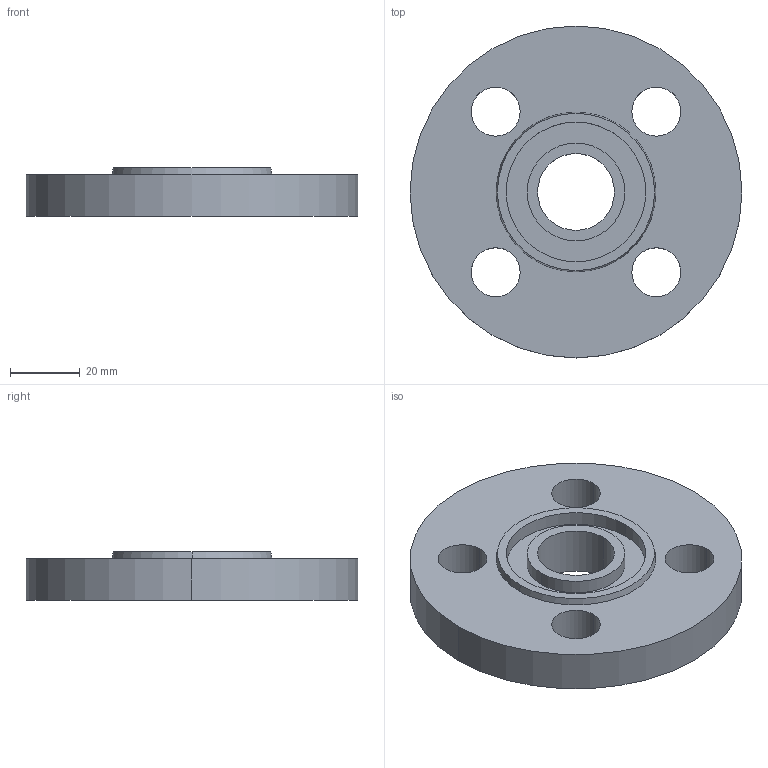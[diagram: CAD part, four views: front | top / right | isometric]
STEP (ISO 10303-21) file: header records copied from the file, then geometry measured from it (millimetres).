
FILE_DESCRIPTION (( 'STEP AP214' ), '1' );
FILE_NAME ('PN40 DN15 Type 01 - Type D Face.STEP', '2018-12-29T15:12:18', ( '' ), ( '' ), 'SwSTEP 2.0', 'SolidWorks 2019', '' );
FILE_SCHEMA (( 'AUTOMOTIVE_DESIGN' ));
Length unit declared in the file: millimetre
Products named in the file (1): PN40 DN15 Type 01 - Type D Face
Bounding box: 95 x 95 x 14 mm (x, y, z)
Volume: 73015.2 mm3; surface area: 19938.5 mm2
Topology: 1 solids, 1 shells, 23 faces, 54 edges, 36 vertices
Faces by surface type: cylinder 16, plane 5, cone 2
Entity records: 738 total; most frequent: DIRECTION 138, CARTESIAN_POINT 114, ORIENTED_EDGE 108, AXIS2_PLACEMENT_3D 60, EDGE_CURVE 54, CIRCLE 36, EDGE_LOOP 36, VERTEX_POINT 36
